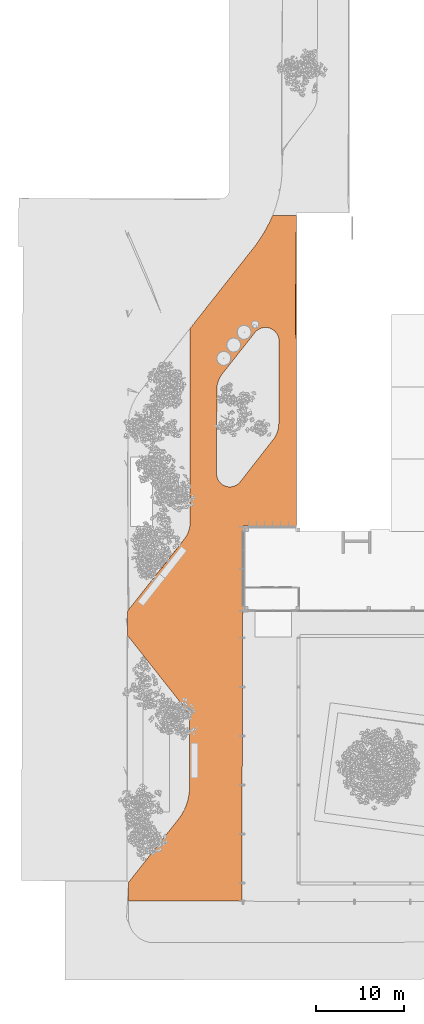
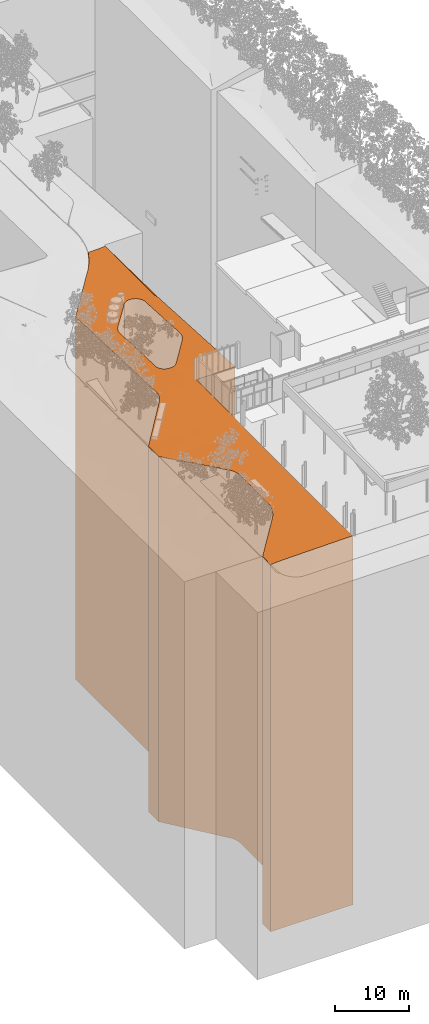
# One storey, part 54 of 69: 1 proxy.
"""IFC2X3 building model written with IfcOpenShell, lengths in millimetres."""

import ifcopenshell
import ifcopenshell.guid

model = None  # the IFC model being written
_history = None  # IfcOwnerHistory: only IFC2X3 demands one
_inside = {}  # id of a spatial element -> (the spatial element, [elements in it])
_under = {}  # id of a project, library or spatial element -> (it, [spatial elements below it])
_declared = {}  # id of a project -> (the project, [libraries it declares])
_typed = {}  # id of a type object -> (the type object, [elements of that type])
_made_of = {}  # id of a material, layer set ... -> (it, [elements and type objects made of it])


def new_model(schema):
    """Start an empty IFC model of exactly this schema.

    Asked for "IFC4X3", IfcOpenShell would pick the latest addendum, in which some entities
    have other attributes; the version numbers below select the first issue.
    IFC2X3 requires an IfcOwnerHistory on every rooted entity: one is made here for all.
    """
    global model, _history
    if schema == "IFC4X3":
        model = ifcopenshell.file(schema_version=(4, 3, 0, 0))
    else:
        model = ifcopenshell.file(schema=schema)
    _inside.clear()
    _under.clear()
    _declared.clear()
    _typed.clear()
    _made_of.clear()
    _history = None
    if model.schema == "IFC2X3":
        org = make("IfcOrganization", Name="unknown")
        user = make(
            "IfcPersonAndOrganization",
            ThePerson=make("IfcPerson", FamilyName="unknown"),
            TheOrganization=org,
        )
        app = make(
            "IfcApplication",
            ApplicationDeveloper=org,
            Version="unknown",
            ApplicationFullName="unknown",
            ApplicationIdentifier="unknown",
        )
        _history = make(
            "IfcOwnerHistory",
            OwningUser=user,
            OwningApplication=app,
            ChangeAction="ADDED",
            CreationDate=0,
        )
    return model


def make(cls, **values):
    """One entity of the class cls with the attributes given. An attribute that is None is left unset."""
    return model.create_entity(
        cls, **{name: value for name, value in values.items() if value is not None}
    )


def entity(cls, *values):
    """Any entity or typed value of the class cls, its attributes in the order of the schema. None: left unset."""
    e = model.create_entity(cls)
    for i, value in enumerate(values):
        if value is not None:
            e[i] = value
    return e


def rooted(cls, **values):
    """An entity with a GlobalId (a new one), such as an element, a storey or a relation."""
    return make(cls, GlobalId=ifcopenshell.guid.new(), OwnerHistory=_history, **values)


def si_unit(unit_type, name, prefix=None):
    """IfcSIUnit, for example si_unit("LENGTHUNIT", "METRE", prefix="MILLI")."""
    return make("IfcSIUnit", UnitType=unit_type, Prefix=prefix, Name=name)


def converted_unit(unit_type, name, factor, base, dimensions=None, offset=None):
    """IfcConversionBasedUnit, such as the inch: factor (a typed value) times the base unit."""
    return make(
        "IfcConversionBasedUnit"
        if offset is None
        else "IfcConversionBasedUnitWithOffset",
        ConversionOffset=offset,
        Dimensions=None
        if dimensions is None
        else entity("IfcDimensionalExponents", *dimensions),
        UnitType=unit_type,
        Name=name,
        ConversionFactor=make(
            "IfcMeasureWithUnit", ValueComponent=factor, UnitComponent=base
        ),
    )


def derived_unit(unit_type, elements):
    """IfcDerivedUnit: a product of units, each with its exponent."""
    return make(
        "IfcDerivedUnit",
        Elements=[
            make("IfcDerivedUnitElement", Unit=unit, Exponent=power)
            for unit, power in elements
        ],
        UnitType=unit_type,
    )


def money_unit(currency):
    """IfcMonetaryUnit."""
    return make("IfcMonetaryUnit", Currency=currency)


def assignment(units):
    """IfcUnitAssignment: the units of a project."""
    return None if units is None else make("IfcUnitAssignment", Units=units)


def point(xyz):
    """IfcCartesianPoint."""
    return None if xyz is None else make("IfcCartesianPoint", Coordinates=xyz)


def direction(xyz):
    """IfcDirection."""
    return None if xyz is None else make("IfcDirection", DirectionRatios=xyz)


def frame(location, z_axis=None, x_axis=None):
    """IfcAxis2Placement3D, a coordinate frame: its origin and axes. An axis left out is left unset."""
    return make(
        "IfcAxis2Placement3D",
        Location=point(location),
        Axis=direction(z_axis),
        RefDirection=direction(x_axis),
    )


def origin_with_axes():
    """The frame at (0, 0, 0) with the z axis (0, 0, 1) and the x axis (1, 0, 0) written out."""
    return frame((0.0, 0.0, 0.0), z_axis=(0.0, 0.0, 1.0), x_axis=(1.0, 0.0, 0.0))


def place(relative_to, where):
    """IfcLocalPlacement: puts the frame where relative to a parent placement (None: the world)."""
    return make(
        "IfcLocalPlacement", PlacementRelTo=relative_to, RelativePlacement=where
    )


def context(
    kind, dimensions, precision=None, world=None, true_north=None, identifier=None
):
    """IfcGeometricRepresentationContext, for example the 3D "Model" context."""
    return make(
        "IfcGeometricRepresentationContext",
        ContextIdentifier=identifier,
        ContextType=kind,
        CoordinateSpaceDimension=dimensions,
        Precision=precision,
        WorldCoordinateSystem=world,
        TrueNorth=true_north,
    )


def subcontext(parent, identifier, kind, view, scale=None):
    """IfcGeometricRepresentationSubContext, for example "Body" below "Model"."""
    return make(
        "IfcGeometricRepresentationSubContext",
        ContextIdentifier=identifier,
        ContextType=kind,
        ParentContext=parent,
        TargetScale=scale,
        TargetView=view,
    )


def project(units=None, contexts=None):
    """IfcProject with its units and contexts."""
    return rooted(
        "IfcProject",
        Name="project",
        RepresentationContexts=contexts,
        UnitsInContext=assignment(units),
    )


def spatial(cls, under=None, at=None, **own):
    """A site, building, storey or space (cls), placed at a placement, below another one or the project."""
    s = rooted(cls, ObjectPlacement=at, **own)
    if under is not None:
        _under.setdefault(under.id(), (under, []))[1].append(s)
    return s


def faces_of(points, faces, orient=None, outer=None):
    """IfcFace entities. A face is a list of loops; a loop is a list of indices into points, from 0.

    orient and outer hold one flag for each loop. By default every Orientation is true, the
    first loop of a face is its IfcFaceOuterBound and the others are IfcFaceBound.
    """
    made = []
    for i, loops in enumerate(faces):
        bounds = []
        for j, loop in enumerate(loops):
            is_outer = j == 0 if outer is None else outer[i][j]
            bounds.append(
                make(
                    "IfcFaceOuterBound" if is_outer else "IfcFaceBound",
                    Bound=make("IfcPolyLoop", Polygon=[points[k] for k in loop]),
                    Orientation=True if orient is None else orient[i][j],
                )
            )
        made.append(make("IfcFace", Bounds=bounds))
    return made


def faceted_brep(points, faces, orient=None, outer=None, voids=None):
    """IfcFacetedBrep: a solid bounded by flat faces; with voids (closed shells), ...WithVoids."""
    shared = [point(p) for p in points]
    hull = make("IfcClosedShell", CfsFaces=faces_of(shared, faces, orient, outer))
    if voids is None:
        return make("IfcFacetedBrep", Outer=hull)
    return make(
        "IfcFacetedBrepWithVoids",
        Outer=hull,
        Voids=[
            make(cls, CfsFaces=faces_of(shared, fs, o, b)) for cls, fs, o, b in voids
        ],
    )


def shape(context_of_items, identifier, shape_type, items):
    """IfcShapeRepresentation: the items that make up one representation, for example the "Body"."""
    return make(
        "IfcShapeRepresentation",
        ContextOfItems=context_of_items,
        RepresentationIdentifier=identifier,
        RepresentationType=shape_type,
        Items=items,
    )


def material(Name=None, Category=None):
    """IfcMaterial."""
    return make("IfcMaterial", Name=Name, Category=Category)


def made_of(thing, what):
    """Note that an element or type object is made of a material, layer set ...; save() writes the relation."""
    if what is not None:
        _made_of.setdefault(what.id(), (what, []))[1].append(thing)
    return thing


def type_object(cls, material=None, **own):
    """A type object (cls), such as IfcWallType, which elements share."""
    return made_of(rooted(cls, **own), material)


def element(
    cls,
    number,
    at=None,
    inside=None,
    cuts=None,
    type_object=None,
    material=None,
    context=None,
    identifier="Body",
    shape_type=None,
    held_by="IfcProductDefinitionShape",
    body=None,
    shapes=None,
    **own,
):
    """One element of the class cls, such as IfcWall. Its Tag is "e" and its number.

    at: its placement. inside: the storey or other place that contains it. cuts: it is an
    opening in that element (IfcRelVoidsElement). A single representation is given by context,
    identifier, shape_type and body (its items); several are given by shapes. held_by: the class
    of the entity that holds the representations. save() writes the other relations.
    """
    e = rooted(cls, Tag="e%d" % number, ObjectPlacement=at, **own)
    if body is not None:
        shapes = [shape(context, identifier, shape_type, body)]
    if shapes is not None:
        e.Representation = make(held_by, Representations=shapes)
    if inside is not None:
        _inside.setdefault(inside.id(), (inside, []))[1].append(e)
    if cuts is not None:
        rooted(
            "IfcRelVoidsElement", RelatingBuildingElement=cuts, RelatedOpeningElement=e
        )
    if type_object is not None:
        _typed.setdefault(type_object.id(), (type_object, []))[1].append(e)
    return made_of(e, material)


def aggregate(whole, parts):
    """IfcRelAggregates: a whole, such as a stair, and the parts it consists of."""
    return rooted("IfcRelAggregates", RelatingObject=whole, RelatedObjects=parts)


def save(model, path):
    """Write the relations noted so far, then the file.

    IfcRelAggregates (storeys below a building ...), IfcRelContainedInSpatialStructure (elements
    in a storey), IfcRelDefinesByType, IfcRelAssociatesMaterial and IfcRelDeclares: one each for
    every whole, place, type object, material and project.
    """
    for whole, parts in _under.values():
        aggregate(whole, parts)
    for where, things in _inside.values():
        rooted(
            "IfcRelContainedInSpatialStructure",
            RelatedElements=things,
            RelatingStructure=where,
        )
    for kind, things in _typed.values():
        rooted("IfcRelDefinesByType", RelatedObjects=things, RelatingType=kind)
    for what, things in _made_of.values():
        rooted("IfcRelAssociatesMaterial", RelatedObjects=things, RelatingMaterial=what)
    for by, libraries in _declared.values():
        rooted("IfcRelDeclares", RelatingContext=by, RelatedDefinitions=libraries)
    model.write(path)


model = new_model("IFC2X3")

# Units and contexts
model_context = context("Model", 3, precision=0.01, world=origin_with_axes(), true_north=direction((0.0, 1.0)))
body_context = subcontext(model_context, "Body", "Model", "MODEL_VIEW")
ifc_project = project(units=[si_unit("LENGTHUNIT", "METRE", prefix="MILLI"), si_unit("AREAUNIT", "SQUARE_METRE"), si_unit("VOLUMEUNIT", "CUBIC_METRE"), converted_unit("PLANEANGLEUNIT", "DEGREE", entity("IfcPlaneAngleMeasure", 0.0174532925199), si_unit("PLANEANGLEUNIT", "RADIAN"), dimensions=[0, 0, 0, 0, 0, 0, 0]), si_unit("SOLIDANGLEUNIT", "STERADIAN"), money_unit("EUR"), converted_unit("TIMEUNIT", "Year", entity("IfcTimeMeasure", 31556926.0), si_unit("TIMEUNIT", "SECOND"), dimensions=[0, 0, 1, 0, 0, 0, 0]), si_unit("MASSUNIT", "GRAM", prefix="KILO"), si_unit("THERMODYNAMICTEMPERATUREUNIT", "DEGREE_CELSIUS"), si_unit("LUMINOUSINTENSITYUNIT", "LUMEN"), si_unit("ENERGYUNIT", "JOULE", prefix="MEGA"), derived_unit("THERMALCONDUCTANCEUNIT", [(si_unit("POWERUNIT", "WATT"), 1), (si_unit("LENGTHUNIT", "METRE"), -1), (si_unit("THERMODYNAMICTEMPERATUREUNIT", "KELVIN"), -1)]), derived_unit("SPECIFICHEATCAPACITYUNIT", [(si_unit("ENERGYUNIT", "JOULE"), 1), (si_unit("MASSUNIT", "GRAM", prefix="KILO"), -1), (si_unit("THERMODYNAMICTEMPERATUREUNIT", "KELVIN"), -1)]), derived_unit("MASSDENSITYUNIT", [(si_unit("MASSUNIT", "GRAM", prefix="KILO"), 1), (si_unit("VOLUMEUNIT", "CUBIC_METRE"), -1)])], contexts=[model_context])

# Site, building, storey
site_placement = place(None, origin_with_axes())
site = spatial("IfcSite", under=ifc_project, at=site_placement, Name="Puškini 31, Narva", CompositionType="ELEMENT")
building_placement = place(site_placement, origin_with_axes())
building = spatial("IfcBuilding", under=site, at=building_placement, Name="Narva Riigigümnaasium", CompositionType="ELEMENT")
storey_placement = place(building_placement, origin_with_axes())
storey = spatial("IfcBuildingStorey", under=building, at=storey_placement, Name="1.korrus 0.00", CompositionType="ELEMENT", Elevation=0.0)

# Proxy
ifc_material = material(Name="Sillutiskivi")
building_element_proxy_type = type_object("IfcBuildingElementProxyType", Name="Sillutiskivi", PredefinedType="NOTDEFINED")
proxy_placement = place(storey_placement, frame((2811.16627841, 117024.582581, -61100.0), z_axis=(0.0, 0.0, 1.0), x_axis=(1.0, 0.0, 0.0)))
element("IfcBuildingElementProxy", 1, at=proxy_placement, inside=storey, type_object=building_element_proxy_type, material=ifc_material, Name="Kergliiklustee", context=body_context, shape_type="Brep", body=[
    faceted_brep([(17181.4759302, 63796.0376816, 59839.7683125), (17194.3131353, 63671.7261951, 59851.5320834), (17195.6441104, 63609.2540943, 59857.3429851), (17195.6338982, 63604.5939472, 59857.774295), (19196.0642648, 63574.385168, 59900.0), (19050.8384751, 64623.432346, 59800.0), (17063.2370771, 64200.3511929, 59800.0), (17083.1017952, 64156.9571463, 59804.4096499), (17125.6846191, 64039.4631353, 59816.128436), (17158.5488996, 63918.8891805, 59827.9408601), (17181.4759302, 63796.0376816, 32257.881548), (17194.3131353, 63671.7261951, 32257.881548), (17195.6441104, 63609.2540943, 32257.881548), (17175.0980242, 54233.0438802, 32257.881548), (17175.0980242, 54233.0438802, 60389.1156966), (17178.4114106, 55745.1083976, 60300.0), (17182.1294833, 57441.8515914, 60200.0), (17185.847556, 59138.5947857, 60100.0), (17189.5656287, 60835.3379796, 60000.0), (17193.2837014, 62532.0811739, 59900.0), (17194.7846644, 63217.0459092, 59859.6306184), (19047.1608792, 62926.6977678, 59900.0), (19177.2025165, 77806.8080771, 59700.0), (17031.0838094, 64270.5893101, 59798.7797773), (17032.3059311, 70510.8326784, 59700.0), (14937.4665166, 64923.2320629, 59781.3936909), (14999.3763242, 64956.2938557, 59781.0789298), (15114.0459352, 65005.9830881, 59780.6787339), (15232.3841263, 65046.1603457, 59780.4414754), (15353.6033763, 65076.5582557, 59780.3687334), (15476.8969911, 65096.9745249, 59780.4609919), (15601.4444721, 65107.2732865, 59780.717637), (15726.4169763, 65107.3860038, 59781.1369606), (15850.9828323, 65097.3119268, 59781.7161724), (15974.3130749, 65077.1180968, 59782.4514176), (16095.5869616, 65046.9389004, 59783.3378035), (16213.9974348, 65006.9751752, 59784.3694312), (16328.7564924, 64957.4928731, 59785.5394354), (16439.1004316, 64898.8212907, 59786.84003), (16544.2949319, 64831.3508777, 59788.2625597), (16643.6399411, 64755.5306387, 59789.7975577), (16736.4743346, 64671.8651447, 59791.4348091), (16822.1803148, 64580.9111758, 59793.163418), (16900.1875227, 64483.2740157, 59794.9718809), (16969.976833, 64379.6034236, 59796.8481628), (17031.0838094, 64270.5893101, 32257.881548), (17083.1017952, 64156.9571463, 32257.881548), (17125.6846191, 64039.4631353, 32257.881548), (17158.5488996, 63918.8891805, 32257.881548), (10633.8818389, 59657.7674775, 32257.881548), (10542.3328065, 59509.1144973, 32257.881548), (10459.5820626, 59355.3899117, 32257.881548), (10385.9096096, 59197.1138759, 32257.881548), (10321.5647318, 59034.8219459, 32257.881548), (10266.7651518, 58869.0632662, 32257.881548), (10221.6962941, 58700.3987118, 32257.881548), (10186.5106575, 58529.3989901, 32257.881548), (10161.3272989, 58356.6427101, 32257.881548), (10146.2314309, 58182.7144243, 32257.881548), (10142.5503087, 58016.8467856, 32257.881548), (10121.7711139, 48534.2572331, 32257.881548), (10121.4756847, 48473.0792243, 32257.881548), (10130.8599437, 48351.0821757, 32257.881548), (10150.1568694, 48230.2559664, 32257.881548), (10179.2380438, 48111.404675, 32257.881548), (10217.9099367, 47995.3192371, 32257.881548), (10265.9151929, 47882.7721822, 32257.881548), (10322.9343454, 47774.5124924, 32257.881548), (10388.5879412, 47671.2606181, 32257.881548), (10462.4390663, 47573.7036834, 32257.881548), (10543.9962537, 47482.4909137, 32257.881548), (10632.7167538, 47398.2293148, 32257.881548), (10728.0101463, 47321.4796339, 32257.881548), (10829.2422695, 47252.7526273, 32257.881548), (10935.7394401, 47192.5056621, 32257.881548), (11046.7929372, 47141.1396717, 32257.881548), (11161.663718, 47098.9964883, 32257.881548), (11279.5873365, 47066.356568, 32257.881548), (11399.7790303, 47043.437124, 32257.881548), (11521.4389437, 47030.3906814, 32257.881548), (11643.7574499, 47027.3040622, 32257.881548), (11765.9205395, 47034.1978072, 32257.881548), (11887.1152373, 47051.0260398, 32257.881548), (12006.5350126, 47077.6767707, 32257.881548), (12123.3851464, 47113.972644, 32257.881548), (12236.8880204, 47159.6721163, 32257.881548), (12346.2882917, 47214.4710654, 32257.881548), (12450.8579196, 47278.0048133, 32257.881548), (12549.9010103, 47349.8505532, 32257.881548), (12642.7584486, 47429.5301638, 32257.881548), (12728.8122834, 47516.5133903, 32257.881548), (12804.1694322, 47607.9720787, 32257.881548), (16498.9717936, 52341.1788654, 32257.881548), (16553.733891, 52408.3547316, 32257.881548), (16655.3359017, 52548.7932186, 32257.881548), (16748.6782168, 52694.8519378, 32257.881548), (16833.4507624, 52846.0456968, 32257.881548), (16909.3719327, 53001.872245, 32257.881548), (16976.1895251, 53161.8139425, 32257.881548), (17033.6815784, 53325.3394788, 32257.881548), (17081.6571098, 53491.9056388, 32257.881548), (17119.9567493, 53660.9591062, 32257.881548), (17148.4532693, 53831.9383025, 32257.881548), (17167.0520074, 54004.2752521, 32257.881548), (17175.6911804, 54177.3974688, 32257.881548), (16969.976833, 64379.6034236, 32257.881548), (16900.1875227, 64483.2740157, 32257.881548), (16822.1803148, 64580.9111758, 32257.881548), (16736.4743346, 64671.8651447, 32257.881548), (16643.6399411, 64755.5306387, 32257.881548), (16544.2949319, 64831.3508777, 32257.881548), (16439.1004316, 64898.8212907, 32257.881548), (16328.7564924, 64957.4928731, 32257.881548), (16213.9974348, 65006.9751752, 32257.881548), (16095.5869616, 65046.9389004, 32257.881548), (15974.3130749, 65077.1180968, 32257.881548), (15850.9828323, 65097.3119268, 32257.881548), (15726.4169763, 65107.3860038, 32257.881548), (15601.4444721, 65107.2732865, 32257.881548), (15476.8969911, 65096.9745249, 32257.881548), (15353.6033763, 65076.5582557, 32257.881548), (15232.3841263, 65046.1603457, 32257.881548), (15114.0459352, 65005.9830881, 32257.881548), (14999.3763242, 64956.2938557, 32257.881548), (14889.1384005, 64897.4233224, 32257.881548), (14784.0657795, 64829.7632617, 32257.881548), (14684.857702, 64753.7639402, 32257.881548), (14592.1743814, 64669.9311209, 32257.881548), (14506.63261, 64578.8226973, 32257.881548), (14477.5605821, 64542.1706397, 32257.881548), (10788.0131711, 59869.3556814, 32257.881548), (10733.919387, 59800.8458574, 32257.881548), (17175.6911804, 54177.3974688, 60392.4042731), (17169.193774, 54047.1945652, 60400.0), (19028.7728998, 54443.0248766, 60400.0), (19032.4504957, 56139.7594549, 60300.0), (19036.1280916, 57836.4940331, 60200.0), (19039.8056875, 59533.2286113, 60100.0), (19043.4832834, 61229.9631895, 60000.0), (19196.0642648, 63574.385168, 0.0), (19177.2025165, 77806.8080771, 0.0), (14889.1384005, 64897.4233224, 59781.777352), (14933.2128977, 70539.7222881, 59700.0), (14524.1020391, 64597.4289539, 59786.1976973), (14592.1743814, 64669.9311209, 59785.133414), (14684.857702, 64753.7639402, 59783.9000174), (14784.0657795, 64829.7632617, 59782.778843), (10633.8818389, 59657.7674775, 60194.5531546), (10594.2058213, 59593.3434404, 60200.0), (10542.3328065, 59509.1144973, 60207.1212866), (10459.5820626, 59355.3899117, 60219.6184808), (10385.9096096, 59197.1138759, 60232.0024506), (10321.5647318, 59034.8219459, 60244.2312924), (10266.7651518, 58869.0632662, 60256.2636279), (10221.6962941, 58700.3987118, 60268.0587434), (10186.5106575, 58529.3989901, 60279.5767278), (10161.3272989, 58356.6427101, 60290.7786082), (10148.4948367, 58208.7924408, 60300.0), (10146.2314309, 58182.7144243, 60301.6264807), (10142.5503087, 58016.8467856, 60311.5224615), (10139.2543329, 56512.7275968, 60400.0), (10135.529121, 54812.7264278, 60500.0), (10132.5414061, 53449.2821205, 60580.2025512), (10131.3311356, 52896.9749507, 60600.0), (10125.2178707, 50107.1853465, 60700.0), (10121.7711139, 48534.2572331, 60756.3816035), (10121.4756847, 48473.0792243, 60758.5673354), (10130.8599437, 48351.0821757, 60763.3705725), (10150.1568694, 48230.2559664, 60768.573618), (10179.2380438, 48111.404675, 60774.1418467), (10217.9099367, 47995.3192371, 60780.0382027), (10265.9151929, 47882.7721822, 60786.2234469), (10322.9343454, 47774.5124924, 60792.6564174), (10388.5879412, 47671.2606181, 60799.294304), (10396.2536704, 47661.1342315, 60800.0), (10462.4390663, 47573.7036834, 60806.0929325), (10543.9962537, 47482.4909137, 60813.0070592), (10632.7167538, 47398.2293148, 60819.9906718), (10728.0101463, 47321.4796339, 60826.9972955), (10829.2422695, 47252.7526273, 60833.9803023), (10935.7394401, 47192.5056621, 60840.8932214), (11046.7929372, 47141.1396717, 60847.6900486), (11161.663718, 47098.9964883, 60854.3255521), (11279.5873365, 47066.356568, 60860.7555736), (11399.7790303, 47043.437124, 60866.9373225), (11521.4389437, 47030.3906814, 60872.8296603), (11643.7574499, 47027.3040622, 60878.3933744), (11765.9205395, 47034.1978072, 60883.5914391), (11820.7103004, 47041.8055232, 60885.7604415), (11887.1152373, 47051.0260398, 60882.4353817), (12006.5350126, 47077.6767707, 60875.8643715), (12123.3851464, 47113.972644, 60868.8345991), (12236.8880204, 47159.6721163, 60861.3928465), (12346.2882917, 47214.4710654, 60853.5886372), (12450.8579196, 47278.0048133, 60845.473907), (12549.9010103, 47349.8505532, 60837.1026582), (12642.7584486, 47429.5301638, 60828.5305999), (12728.8122834, 47516.5133903, 60819.8147778), (12804.1694322, 47607.9720787, 60811.284482), (16462.0685026, 52293.9041019, 60500.0), (16498.9717936, 52341.1788654, 60497.0926263), (12900.4901704, 47731.3632447, 60800.0), (13406.2296919, 48379.2381515, 60740.7499501), (13923.4687572, 49041.8444873, 60700.0), (15192.7686295, 50667.8742941, 60600.0), (16553.733891, 52408.3547316, 60492.961742), (16655.3359017, 52548.7932186, 60484.3234756), (16748.6782168, 52694.8519378, 60475.3374069), (16799.7787083, 52785.9908241, 60469.7289873), (16833.4507624, 52846.0456968, 60466.6105358), (16909.3719327, 53001.872245, 60458.3752806), (16976.1895251, 53161.8139425, 60449.7831203), (17033.6815784, 53325.3394788, 60440.8625972), (17081.6571098, 53491.9056388, 60431.6433444), (17119.9567493, 53660.9591062, 60422.1559873), (17148.4532693, 53831.9383025, 60412.432042), (17167.0520074, 54004.2752521, 60402.5038104), (14506.63261, 64578.8226973, 59787.0090469), (14477.5605821, 64542.1706397, 59788.4286804), (14240.9378647, 64242.4877655, 59800.0), (13856.4601286, 63755.5463835, 59818.801723), (13158.2871549, 62871.3097144, 59900.0), (12298.4499765, 61782.3251916, 60000.0), (11438.6127986, 60693.3406694, 60100.0), (10788.0131711, 59869.3556814, 60175.6654452), (10733.919387, 59800.8458574, 60181.9566112), (16905.5976944, 52295.1336973, 60500.0), (19025.0953039, 52746.2902984, 60500.0), (19021.417708, 51049.5557202, 60600.0), (19017.7401122, 49352.8211429, 60700.0), (19014.0625163, 47656.0865647, 60800.0), (19010.3849205, 45959.3519864, 60900.0), (19006.7073246, 44262.6174082, 61000.0), (19150.07482, 42587.1587863, 61100.0), (0.0, 32916.3837251, 0.0), (6474.40312386, 41140.2188046, 0.0), (6528.11613393, 41209.0275686, 0.0), (6627.35865864, 41352.6585371, 0.0), (6718.0818826, 41501.8169444, 0.0), (6799.97882716, 41655.9980856, 0.0), (6872.77237897, 41814.6802605, 0.0), (6936.2162277, 41977.3265389, 0.0), (6990.09569945, 42143.3865773, 0.0), (7034.22848314, 42312.2984811, 0.0), (7068.4652474, 42483.4907058, 0.0), (7092.69014586, 42656.3839912, 0.0), (7106.82120912, 42830.393321, 0.0), (7109.59208164, 42979.6413451, 0.0), (7109.12916246, 43584.2263265, 0.0), (7092.74154436, 64986.899322, 0.0), (11792.046815, 70954.5253828, 0.0), (13835.2230215, 73549.1454117, 0.0), (13970.264271, 73710.3400184, 0.0), (14232.5981601, 74039.0652712, 0.0), (14487.0348508, 74373.9403698, 0.0), (14733.4302273, 74714.7756374, 0.0), (14971.6447287, 75061.3780213, 0.0), (15201.5434278, 75413.5512022, 0.0), (15422.9961076, 75771.0957055, 0.0), (15635.8773348, 76133.8090142, 0.0), (15840.0665313, 76501.4856836, 0.0), (16042.3705894, 76890.2792204, 0.0), (16059.7964636, 76924.6569389, 0.0), (16154.6673237, 77112.3251574, 0.0), (16335.4231649, 77492.0707131, 0.0), (16482.4920139, 77822.5850839, 0.0), (19178.8337216, 42587.1587863, 0.0), (19150.07482, 42587.1587863, 0.0), (13088.833721, 42575.4174109, 0.0), (13088.833721, 32900.4174198, 0.0), (12981.3898321, 68.883074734, 0.0), (13016.8895271, 68.74199711, 0.0), (13016.7388925, 0.0, 0.0), (123.695016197, 28.2525838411, 0.0), (128.527488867, 2147.54924715, 0.0), (4801.50985499, 8065.4556427, 0.0), (5753.76085417, 9271.39477037, 0.0), (5830.11773998, 9368.10083158, 0.0), (5974.76221637, 9567.61955399, 0.0), (6111.09349423, 9772.90844268, 0.0), (6238.88168817, 9983.62133415, 0.0), (6357.9113184, 10199.4029188, 0.0), (6457.00501361, 10399.7794331, 0.0), (6510.18919844, 10510.927437, 0.0), (6607.34151855, 10737.4029806, 0.0), (6695.11396831, 10967.6761709, 0.0), (6773.35854352, 11201.3587154, 0.0), (6841.94330613, 11438.0565723, 0.0), (6894.47433141, 11655.3370347, 0.0), (6921.87416997, 11775.4689835, 0.0), (6966.76360356, 12017.7801138, 0.0), (7001.66709985, 12261.7298855, 0.0), (7026.52580367, 12506.9069439, 0.0), (7041.29779761, 12752.8978652, 0.0), (7044.68658149, 12976.4125718, 0.0), (7060.58590138, 20185.3856023, 0.0), (7060.77055736, 20272.6764921, 0.0), (7050.98821679, 20446.9843807, 0.0), (7031.08732404, 20620.4285754, 0.0), (7001.13521741, 20792.422196, 0.0), (6961.23324537, 20962.3832705, 0.0), (6911.51642356, 21129.7367044, 0.0), (6852.15297795, 21293.9162267, 0.0), (6783.34377567, 21454.3663058, 0.0), (6705.32164527, 21610.5440295, 0.0), (6618.35058894, 21761.9209417, 0.0), (6565.80273183, 21842.1627545, 0.0), (6517.78009623, 21915.0569245, 0.0), (6433.32466444, 22027.5266408, 0.0), (4842.38827991, 24042.2722239, 0.0), (6.28022819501, 30166.6700512, 0.0), (16482.4920139, 77822.5850839, 59600.0), (16852.0482759, 77820.4214037, 59600.0), (18990.4008607, 77807.9017645, 59700.0), (19178.8337216, 42587.1587863, 61100.0), (14232.5981601, 74039.0652712, 59684.3217696), (13835.2230215, 73549.1454117, 59700.0), (11792.046815, 70954.5253828, 59800.0), (7479.48273702, 63519.0158952, 60100.0), (8031.97015364, 61422.0395775, 60200.0), (8584.45757013, 59325.0632598, 60300.0), (9136.94498663, 57228.0869421, 60400.0), (9689.43240312, 55131.1106244, 60500.0), (7102.74437619, 51922.9300891, 60500.0), (7104.87263828, 49143.3621681, 60600.0), (7107.00090037, 46363.7942472, 60700.0), (7109.12916246, 43584.2263265, 60800.0), (8061.99432613, 41983.8248111, 60900.0), (11899.3820693, 46743.2053537, 60900.0), (13228.085634, 45794.8948194, 60900.0), (13339.9499995, 47417.7158695, 60800.0), (17954.3137113, 47430.5082632, 60800.0), (17604.7417057, 49052.0500749, 60700.0), (17255.1696999, 50673.5918856, 60600.0), (9748.87060852, 68359.9053538, 59900.0), (11256.049256, 64228.958092, 59900.0), (8053.50485738, 64811.9898079, 60000.0), (18303.8857171, 45808.9664524, 60900.0), (18653.4577227, 44187.4246408, 61000.0), (0.0, 32916.3837251, 60500.0), (6474.40312386, 41140.2188046, 60800.0), (6528.11613393, 41209.0275686, 60800.0), (6627.35865864, 41352.6585371, 60800.0), (6718.0818826, 41501.8169444, 60800.0), (6799.97882716, 41655.9980856, 60800.0), (6872.77237897, 41814.6802605, 60800.0), (6936.2162277, 41977.3265389, 60800.0), (6990.09569945, 42143.3865773, 60800.0), (7034.22848314, 42312.2984811, 60800.0), (7068.4652474, 42483.4907058, 60800.0), (7092.69014586, 42656.3839912, 60800.0), (7106.82120912, 42830.393321, 60800.0), (7109.59208164, 42979.6413451, 60800.0), (7100.6161141, 54702.4980098, 60400.0), (7098.48785201, 57482.0659307, 60300.0), (7096.35958992, 60261.6338507, 60200.0), (7094.23132783, 63041.2017716, 60100.0), (7092.74154436, 64986.899322, 60000.0), (7705.69440208, 65765.2853248, 60000.0), (13970.264271, 73710.3400184, 59694.7823783), (14487.0348508, 74373.9403698, 59673.8417207), (14733.4302273, 74714.7756374, 59663.3481675), (14971.6447287, 75061.3780213, 59652.8470539), (15201.5434278, 75413.5512022, 59642.3443276), (15422.9961076, 75771.0957055, 59631.8459376), (15635.8773348, 76133.8090142, 59621.3578303), (15840.0665313, 76501.4856836, 59610.8859461), (16042.3705894, 76890.2792204, 59600.0), (16059.7964636, 76924.6569389, 59600.0), (16154.6673237, 77112.3251574, 59600.0), (16335.4231649, 77492.0707131, 59600.0), (13110.0346807, 42575.4584798, 61100.0), (13088.833721, 42575.4174109, 61100.0), (13088.833721, 32900.4174198, 61100.0), (13072.1478848, 27801.7411655, 61000.0), (13046.212702, 19876.7502324, 61000.0), (12993.6903018, 3827.52675201, 61000.0), (12981.3898321, 68.883074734, 61100.0), (13016.8895271, 68.74199711, 61100.0), (13016.7388925, 0.0, 61100.0), (7391.25386872, 12.3271501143, 61000.0), (1839.04549348, 24.4937287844, 60900.0), (123.695016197, 28.2525838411, 60800.0), (128.527488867, 2147.54924715, 60900.0), (4801.50985499, 8065.4556427, 60900.0), (5753.76085417, 9271.39477037, 60900.0), (5830.11773998, 9368.10083158, 60900.0), (5974.76221637, 9567.61955399, 60900.0), (6111.09349423, 9772.90844268, 60900.0), (6238.88168817, 9983.62133415, 60900.0), (6357.9113184, 10199.4029188, 60900.0), (6457.00501361, 10399.7794331, 60900.0), (6510.18919844, 10510.927437, 60900.0), (6607.34151855, 10737.4029806, 60900.0), (6695.11396831, 10967.6761709, 60900.0), (6773.35854352, 11201.3587154, 60900.0), (6841.94330613, 11438.0565723, 60900.0), (6894.47433141, 11655.3370347, 60900.0), (6921.87416997, 11775.4689835, 60900.0), (6966.76360356, 12017.7801138, 60900.0), (7001.66709985, 12261.7298855, 60900.0), (7026.52580367, 12506.9069439, 60900.0), (7041.29779761, 12752.8978652, 60900.0), (7044.68658149, 12976.4125718, 60900.0), (7060.58590138, 20185.3856023, 60900.0), (7060.77055736, 20272.6764921, 60900.0), (7050.98821679, 20446.9843807, 60900.0), (7031.08732404, 20620.4285754, 60900.0), (7001.13521741, 20792.422196, 60900.0), (6961.23324537, 20962.3832705, 60900.0), (6911.51642356, 21129.7367044, 60900.0), (6852.15297795, 21293.9162267, 60900.0), (6783.34377567, 21454.3663058, 60900.0), (6705.32164527, 21610.5440295, 60900.0), (6618.35058894, 21761.9209417, 60900.0), (6565.80273183, 21842.1627545, 60900.0), (6517.78009623, 21915.0569245, 60900.0), (6433.32466444, 22027.5266408, 60900.0), (4842.38827991, 24042.2722239, 60800.0), (3115.20683289, 26229.5571622, 60700.0), (1388.02538588, 28416.8421005, 60500.0), (6.28022819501, 30166.6700512, 60500.0), (16297.7028634, 77179.9558986, 59600.0), (16045.0377435, 76893.3051299, 59600.0), (10533.1756133, 42266.5387634, 61000.0), (12451.8694858, 44646.229036, 61000.0), (13116.2212685, 44172.0737683, 61000.0), (2101.00486349, 35537.0985673, 60600.0), (8060.08879863, 40362.7521177, 60900.0), (10526.5965593, 36669.5978303, 61000.0), (10996.5595933, 29042.7412899, 61000.0), (10542.4510185, 4326.44909367, 61000.0), (7952.02873915, 746.405444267, 61000.0), (2975.70448308, 1512.42896979, 60900.0), (6565.80732219, 21842.1783822, 60900.0), (8507.91559575, 28453.9807764, 60900.0), (6270.64313065, 28904.6884801, 60800.0), (4033.37066544, 29355.3961839, 60700.0), (1796.09820022, 29806.1038876, 60600.0), (1797.5663099, 30554.2250149, 60600.0), (2342.26450091, 32873.1456368, 60600.0), (4011.84588438, 37979.5335391, 60700.0), (5922.68690504, 40421.9685101, 60800.0), (10862.9363563, 32955.7839584, 61000.0), (10753.9967181, 32491.9998334, 61000.0), (6275.78151398, 31523.1124242, 60800.0), (4036.67391188, 31038.6687195, 60700.0), (8732.76839251, 32935.1243777, 60900.0), (4472.43246485, 32893.8052174, 60700.0), (6602.60042869, 32914.464798, 60800.0), (8514.88911596, 32007.5561288, 60900.0)], [[[0, 1, 2, 3, 4, 5, 6, 7, 8, 9]], [[1, 0, 10, 11]], [[2, 1, 11, 12]], [[3, 2, 12, 13, 14, 15, 16, 17, 18, 19, 20]], [[3, 20, 21, 4]], [[4, 22, 5]], [[23, 6, 5, 24, 25, 26, 27, 28, 29, 30, 31, 32, 33, 34, 35, 36, 37, 38, 39, 40, 41, 42, 43, 44]], [[7, 6, 23, 45, 46]], [[8, 7, 46, 47]], [[9, 8, 47, 48]], [[0, 9, 48, 10]], [[49, 50, 51, 52, 53, 54, 55, 56, 57, 58, 59, 60, 61, 62, 63, 64, 65, 66, 67, 68, 69, 70, 71, 72, 73, 74, 75, 76, 77, 78, 79, 80, 81, 82, 83, 84, 85, 86, 87, 88, 89, 90, 91, 92, 93, 94, 95, 96, 97, 98, 99, 100, 101, 102, 103, 104, 13, 12, 11, 10, 48, 47, 46, 45, 105, 106, 107, 108, 109, 110, 111, 112, 113, 114, 115, 116, 117, 118, 119, 120, 121, 122, 123, 124, 125, 126, 127, 128, 129, 130, 131]], [[132, 14, 13, 104]], [[132, 133, 134, 135, 15, 14]], [[16, 15, 135, 136]], [[17, 16, 136, 137]], [[18, 17, 137, 138]], [[19, 18, 138, 21]], [[20, 19, 21]], [[138, 137, 136, 4, 21]], [[139, 140, 22, 4]], [[5, 22, 24]], [[141, 25, 24, 142, 143, 144, 145, 146]], [[26, 25, 141, 124, 123]], [[27, 26, 123, 122]], [[28, 27, 122, 121]], [[29, 28, 121, 120]], [[30, 29, 120, 119]], [[31, 30, 119, 118]], [[32, 31, 118, 117]], [[33, 32, 117, 116]], [[34, 33, 116, 115]], [[35, 34, 115, 114]], [[36, 35, 114, 113]], [[37, 36, 113, 112]], [[38, 37, 112, 111]], [[39, 38, 111, 110]], [[40, 39, 110, 109]], [[41, 40, 109, 108]], [[42, 41, 108, 107]], [[43, 42, 107, 106]], [[44, 43, 106, 105]], [[23, 44, 105, 45]], [[147, 148, 149, 50, 49]], [[149, 150, 51, 50]], [[150, 151, 52, 51]], [[151, 152, 53, 52]], [[152, 153, 54, 53]], [[153, 154, 55, 54]], [[154, 155, 56, 55]], [[155, 156, 57, 56]], [[156, 157, 158, 58, 57]], [[158, 159, 59, 58]], [[159, 160, 161, 162, 163, 164, 165, 60, 59]], [[165, 166, 61, 60]], [[166, 167, 62, 61]], [[167, 168, 63, 62]], [[168, 169, 64, 63]], [[169, 170, 65, 64]], [[170, 171, 66, 65]], [[171, 172, 67, 66]], [[172, 173, 68, 67]], [[174, 175, 69, 68, 173]], [[175, 176, 70, 69]], [[176, 177, 71, 70]], [[177, 178, 72, 71]], [[178, 179, 73, 72]], [[179, 180, 74, 73]], [[180, 181, 75, 74]], [[181, 182, 76, 75]], [[182, 183, 77, 76]], [[183, 184, 78, 77]], [[184, 185, 79, 78]], [[185, 186, 80, 79]], [[186, 187, 81, 80]], [[188, 189, 82, 81, 187]], [[189, 190, 83, 82]], [[190, 191, 84, 83]], [[191, 192, 85, 84]], [[192, 193, 86, 85]], [[193, 194, 87, 86]], [[194, 195, 88, 87]], [[195, 196, 89, 88]], [[196, 197, 90, 89]], [[197, 198, 91, 90]], [[199, 200, 92, 91, 198, 201, 202, 203, 204]], [[200, 205, 93, 92]], [[205, 206, 94, 93]], [[206, 207, 95, 94]], [[208, 209, 96, 95, 207]], [[209, 210, 97, 96]], [[210, 211, 98, 97]], [[211, 212, 99, 98]], [[212, 213, 100, 99]], [[213, 214, 101, 100]], [[214, 215, 102, 101]], [[215, 216, 103, 102]], [[133, 132, 104, 103, 216]], [[141, 146, 125, 124]], [[146, 145, 126, 125]], [[145, 144, 127, 126]], [[144, 143, 217, 128, 127]], [[217, 218, 129, 128]], [[218, 219, 220, 221, 222, 223, 224, 130, 129]], [[224, 225, 131, 130]], [[225, 147, 49, 131]], [[209, 208, 226, 227, 134, 133, 216, 215, 214, 213, 212, 211, 210]], [[227, 228, 229, 230, 231, 232, 233, 136, 135, 134]], [[4, 136, 233]], [[234, 235, 236, 237, 238, 239, 240, 241, 242, 243, 244, 245, 246, 247, 248, 249, 250, 251, 252, 253, 254, 255, 256, 257, 258, 259, 260, 261, 262, 263, 264, 265, 140, 139, 266, 267, 268, 269, 270, 271, 272, 273, 274, 275, 276, 277, 278, 279, 280, 281, 282, 283, 284, 285, 286, 287, 288, 289, 290, 291, 292, 293, 294, 295, 296, 297, 298, 299, 300, 301, 302, 303, 304, 305, 306, 307, 308, 309, 310]], [[140, 265, 311, 312, 313, 22]], [[266, 139, 4, 314]], [[24, 22, 313]], [[315, 142, 24]], [[217, 143, 142, 316, 317, 219, 218]], [[224, 223, 318, 319, 148, 147, 225]], [[149, 148, 319, 320, 157, 156, 155, 154, 153, 152, 151, 150]], [[158, 157, 320, 321, 160, 159]], [[161, 160, 321, 322]], [[162, 161, 322]], [[163, 162, 322, 323, 324]], [[164, 163, 324, 325]], [[165, 164, 325, 326, 174, 173, 172, 171, 170, 169, 168, 167, 166]], [[175, 174, 326, 327, 328, 188, 187, 186, 185, 184, 183, 182, 181, 180, 179, 178, 177, 176]], [[189, 188, 328, 329, 330, 201, 198, 197, 196, 195, 194, 193, 192, 191, 190]], [[200, 199, 226, 208, 207, 206, 205]], [[202, 201, 330]], [[203, 202, 330, 331, 332]], [[204, 203, 332, 333]], [[199, 204, 333, 226]], [[220, 219, 317, 334, 335]], [[221, 220, 335]], [[222, 221, 335, 336]], [[223, 222, 336, 318]], [[227, 226, 333, 228]], [[228, 333, 332, 229]], [[229, 332, 331, 230]], [[230, 331, 337, 231]], [[232, 231, 337, 338]], [[233, 232, 338]], [[233, 314, 4]], [[235, 234, 339, 340]], [[236, 235, 340, 341]], [[237, 236, 341, 342]], [[238, 237, 342, 343]], [[239, 238, 343, 344]], [[240, 239, 344, 345]], [[241, 240, 345, 346]], [[242, 241, 346, 347]], [[243, 242, 347, 348]], [[244, 243, 348, 349]], [[245, 244, 349, 350]], [[246, 245, 350, 351]], [[247, 246, 351, 352]], [[248, 247, 352, 326]], [[249, 248, 326, 325, 324, 323, 353, 354, 355, 356, 357]], [[250, 249, 357, 358, 334, 317]], [[251, 250, 317, 316]], [[252, 251, 316, 359]], [[253, 252, 359, 315]], [[254, 253, 315, 360]], [[255, 254, 360, 361]], [[256, 255, 361, 362]], [[257, 256, 362, 363]], [[258, 257, 363, 364]], [[259, 258, 364, 365]], [[260, 259, 365, 366]], [[261, 260, 366, 367]], [[262, 261, 367, 368]], [[263, 262, 368, 369]], [[264, 263, 369, 370]], [[265, 264, 370, 311]], [[267, 266, 314, 233]], [[268, 267, 233, 371, 372]], [[269, 268, 372, 373]], [[270, 269, 373, 374, 375, 376, 377]], [[271, 270, 377, 378]], [[272, 271, 378, 379]], [[273, 272, 379, 380, 381, 382]], [[274, 273, 382, 383]], [[275, 274, 383, 384]], [[276, 275, 384, 385]], [[277, 276, 385, 386]], [[278, 277, 386, 387]], [[279, 278, 387, 388]], [[280, 279, 388, 389]], [[281, 280, 389, 390]], [[282, 281, 390, 391]], [[283, 282, 391, 392]], [[284, 283, 392, 393]], [[285, 284, 393, 394]], [[286, 285, 394, 395]], [[287, 286, 395, 396]], [[288, 287, 396, 397]], [[289, 288, 397, 398]], [[290, 289, 398, 399]], [[291, 290, 399, 400]], [[292, 291, 400, 401]], [[293, 292, 401, 402]], [[294, 293, 402, 403]], [[295, 294, 403, 404]], [[296, 295, 404, 405]], [[297, 296, 405, 406]], [[298, 297, 406, 407]], [[299, 298, 407, 408]], [[300, 299, 408, 409]], [[301, 300, 409, 410]], [[302, 301, 410, 411]], [[303, 302, 411, 412]], [[304, 303, 412, 413]], [[305, 304, 413, 414]], [[306, 305, 414, 415]], [[307, 306, 415, 416]], [[308, 307, 416, 417]], [[309, 308, 417, 418]], [[310, 309, 418, 419, 420, 421]], [[234, 310, 421, 339]], [[422, 312, 311, 370, 369, 368, 423]], [[313, 312, 422]], [[313, 364, 24]], [[315, 359, 142]], [[24, 360, 315]], [[359, 316, 142]], [[356, 355, 319, 318]], [[355, 354, 320, 319]], [[321, 320, 354, 353]], [[322, 321, 353, 323]], [[326, 352, 327]], [[327, 424, 425, 328]], [[329, 328, 425, 426]], [[329, 337, 331, 330]], [[334, 358, 336, 335]], [[318, 336, 357]], [[426, 338, 337, 329]], [[338, 371, 233]], [[339, 427, 340]], [[341, 340, 428]], [[342, 341, 428]], [[343, 342, 428]], [[344, 343, 428]], [[327, 345, 344]], [[346, 345, 327]], [[347, 346, 327]], [[348, 347, 327]], [[349, 348, 327]], [[350, 349, 327]], [[351, 350, 327]], [[352, 351, 327]], [[357, 356, 318]], [[358, 357, 336]], [[24, 361, 360]], [[24, 362, 361]], [[24, 363, 362]], [[364, 363, 24]], [[313, 365, 364]], [[313, 366, 365]], [[422, 423, 367, 366]], [[423, 368, 367]], [[426, 372, 371]], [[372, 429, 373]], [[430, 374, 373]], [[413, 375, 374]], [[401, 376, 375]], [[377, 376, 431]], [[379, 378, 377]], [[432, 380, 379]], [[433, 381, 380, 432]], [[383, 382, 381]], [[433, 384, 383, 381]], [[385, 384, 431, 386]], [[387, 386, 431]], [[388, 387, 431]], [[389, 388, 431]], [[390, 389, 431]], [[391, 390, 431]], [[392, 391, 431]], [[393, 392, 431]], [[394, 393, 431]], [[395, 394, 431]], [[396, 395, 431]], [[397, 396, 431]], [[376, 398, 397]], [[376, 399, 398]], [[376, 400, 399]], [[376, 401, 400]], [[375, 402, 401]], [[375, 403, 402]], [[404, 403, 375, 405]], [[375, 406, 405]], [[375, 407, 406]], [[375, 408, 407]], [[409, 408, 375]], [[410, 409, 375]], [[411, 410, 375]], [[412, 411, 375]], [[413, 412, 375]], [[374, 414, 413]], [[434, 415, 414]], [[435, 417, 416, 415, 434]], [[435, 418, 417]], [[418, 436, 437, 419]], [[437, 420, 419]], [[421, 420, 438]], [[439, 339, 421]], [[366, 313, 422]], [[327, 428, 429, 424]], [[424, 372, 425]], [[372, 426, 425]], [[426, 371, 338]], [[339, 440, 427]], [[427, 441, 442, 340]], [[428, 340, 442]], [[428, 327, 344]], [[372, 424, 429]], [[373, 429, 443]], [[430, 435, 374]], [[373, 444, 430]], [[431, 376, 397]], [[377, 431, 432]], [[379, 377, 432]], [[432, 384, 433]], [[432, 431, 384]], [[414, 374, 434]], [[434, 374, 435]], [[418, 435, 436]], [[436, 445, 446, 437]], [[438, 420, 437]], [[421, 438, 439]], [[440, 339, 439]], [[443, 429, 428, 447]], [[427, 440, 448, 441]], [[442, 441, 448, 449]], [[442, 449, 447, 428]], [[373, 443, 444]], [[450, 435, 430]], [[430, 444, 450]], [[435, 450, 445, 436]], [[448, 446, 445, 449]], [[437, 446, 439, 438]], [[440, 439, 446, 448]], [[444, 443, 447, 450]], [[450, 447, 449, 445]]]),
])

save(model, "model.ifc")
